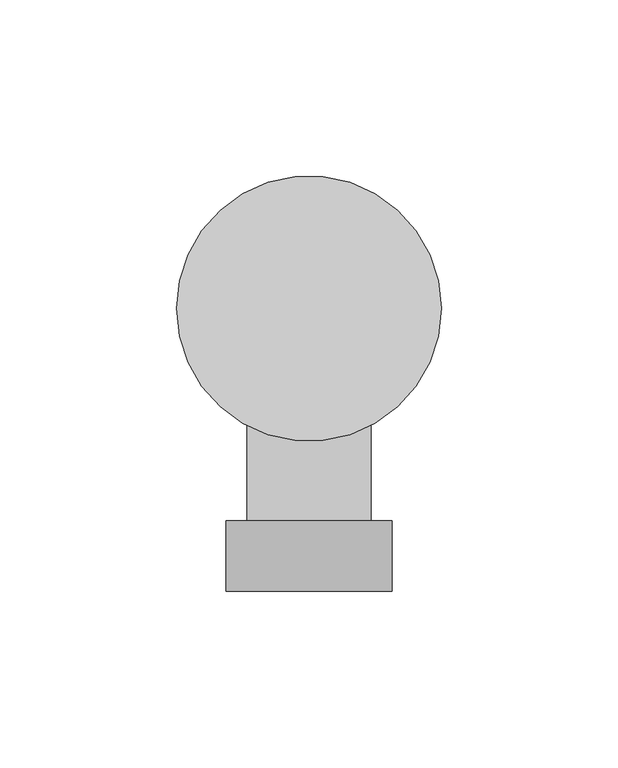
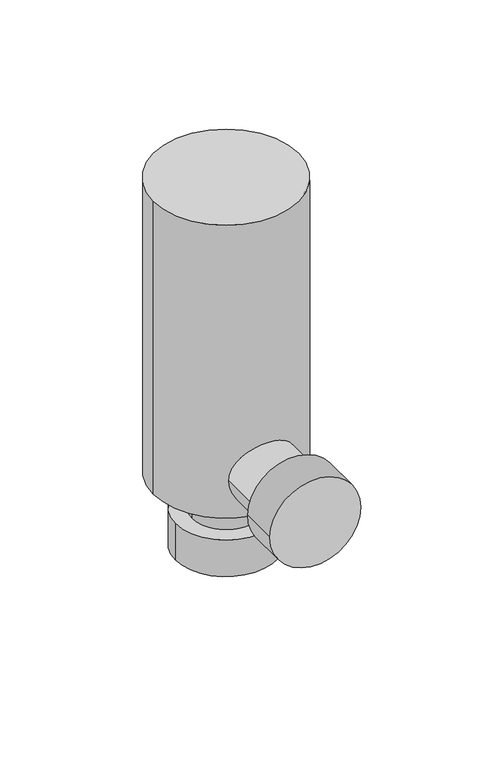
"""IFC4 building model written with IfcOpenShell, lengths in millimetres: flow terminal geometry."""

from ifc_helpers import new_model, si_unit, point, frame, frame_2d, origin, origin_with_axes, origin_2d, place, context, project, spatial, circle_curve, trimmed, segment, composite_curve, outline, extrude, source, transform, mapped, element, save


def flow_terminal_fd26ee67(model_context):
    return source(origin(), model_context, "Body", "SweptSolid", [
        extrude(outline(composite_curve([segment(trimmed(circle_curve(frame_2d((60.0, 0.0)), 23.5), [point((60.0, 23.5))], [point((60.0, -23.5))], False, "CARTESIAN"), True, "CONTINUOUS"), segment(trimmed(circle_curve(frame_2d((60.0, 0.0)), 23.5), [point((60.0, -23.5))], [point((60.0, 23.5))], False, "CARTESIAN"), True, "CONTINUOUS")], self_intersect=False)), frame((0.0, -80.0, 0.0), z_axis=(0.0, 1.0, 0.0), x_axis=(0.0, 0.0, 1.0)), (0.0, 0.0, 1.0), 20.0),
        extrude(outline(composite_curve([segment(trimmed(circle_curve(frame_2d((60.0, 0.0)), 17.5), [point((60.0, -17.5))], [point((60.0, 17.5))], False, "CARTESIAN"), True, "CONTINUOUS"), segment(trimmed(circle_curve(frame_2d((60.0, 0.0)), 17.5), [point((60.0, 17.5))], [point((60.0, -17.5))], False, "CARTESIAN"), True, "CONTINUOUS")], self_intersect=False)), frame((0.0, -60.0, 0.0), z_axis=(0.0, 1.0, 0.0), x_axis=(0.0, 0.0, 1.0)), (0.0, 0.0, 1.0), 60.0),
        extrude(outline(composite_curve([segment(trimmed(circle_curve(origin_2d(), 37.5), [point((-37.5, 0.0))], [point((37.5, 0.0))], False, "CARTESIAN"), True, "CONTINUOUS"), segment(trimmed(circle_curve(origin_2d(), 37.5), [point((37.5, 0.0))], [point((-37.5, 0.0))], False, "CARTESIAN"), True, "CONTINUOUS")], self_intersect=False)), frame((0.0, 0.0, 40.0), z_axis=(0.0, 0.0, 1.0), x_axis=(1.0, 0.0, 0.0)), (0.0, 0.0, 1.0), 160.0),
        extrude(outline(composite_curve([segment(trimmed(circle_curve(origin_2d(), 17.5), [point((-17.5, 0.0))], [point((17.5, 0.0))], False, "CARTESIAN"), True, "CONTINUOUS"), segment(trimmed(circle_curve(origin_2d(), 17.5), [point((17.5, 0.0))], [point((-17.5, 0.0))], False, "CARTESIAN"), True, "CONTINUOUS")], self_intersect=False)), origin_with_axes(), (0.0, 0.0, 1.0), 40.0),
        extrude(outline(composite_curve([segment(trimmed(circle_curve(origin_2d(), 26.0), [point((-26.0, 0.0))], [point((26.0, 0.0))], False, "CARTESIAN"), True, "CONTINUOUS"), segment(trimmed(circle_curve(origin_2d(), 26.0), [point((26.0, 0.0))], [point((-26.0, 0.0))], False, "CARTESIAN"), True, "CONTINUOUS")], self_intersect=False)), origin_with_axes(), (0.0, 0.0, 1.0), 20.0),
    ])


if __name__ == "__main__":
    model = new_model("IFC4")
    model_context = context("Model", 3, world=origin())
    ifc_project = project(units=[si_unit("LENGTHUNIT", "METRE", prefix="MILLI")], contexts=[model_context])
    site = spatial("IfcSite", under=ifc_project)
    building = spatial("IfcBuilding", under=site)
    placement = place(None, origin())
    flow_terminal_shape = flow_terminal_fd26ee67(model_context)
    element("IfcFlowTerminal", 1, ObjectType="ASH_BottleTrap_MultiProduct_BIM_GB_S8910;S8920 : S892067 Trap 1¼\" plastic resealing bottle, 75mm seal, multi-purpose outlet", at=placement, inside=building, context=model_context, shape_type="MappedRepresentation", body=[
        mapped(flow_terminal_shape, transform((0.0, 0.0, 0.0), x_axis=(1.0, 0.0, 0.0), y_axis=(0.0, 1.0, 0.0), z_axis=(0.0, 0.0, 1.0))),
    ])
    save(model, "model.ifc")
